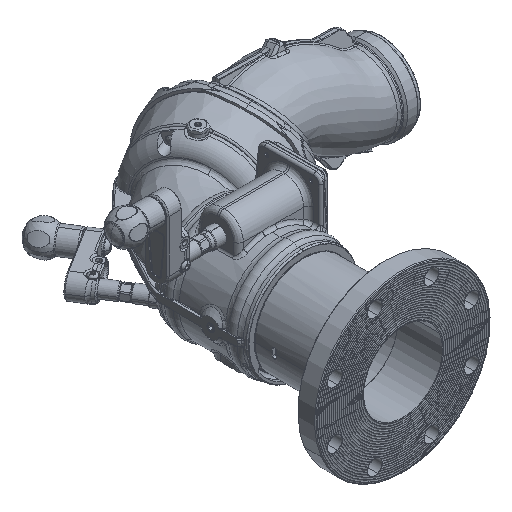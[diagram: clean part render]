
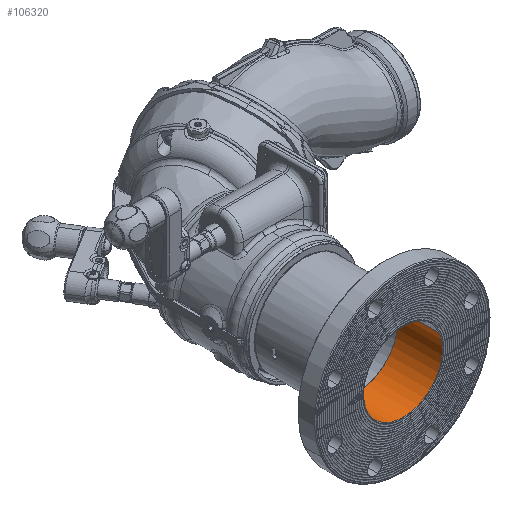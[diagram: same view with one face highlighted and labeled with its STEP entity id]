
A CAD part, isometric view. The second image highlights one B-rep face of the part: STEP entity #106320.
In plain terms, the highlighted cylindrical face has radius 50.8 mm (diameter 101.6 mm), a partial arc.
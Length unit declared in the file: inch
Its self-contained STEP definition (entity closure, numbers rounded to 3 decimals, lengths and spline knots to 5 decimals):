
#2642 = CARTESIAN_POINT ( 'NONE',  ( 0., -9.59562, 0. ) ) ;
#4310 = CARTESIAN_POINT ( 'NONE',  ( -1.84776, -6.81471, -0.76537 ) ) ;
#5123 = DIRECTION ( 'NONE',  ( 0., 1., 0. ) ) ;
#7332 = CIRCLE ( 'NONE', #82088, 2. ) ;
#12730 = LINE ( 'NONE', #86142, #80645 ) ;
#15342 = VERTEX_POINT ( 'NONE', #119558 ) ;
#24745 = VERTEX_POINT ( 'NONE', #89768 ) ;
#28798 = CYLINDRICAL_SURFACE ( 'NONE', #88360, 2. ) ;
#29998 = DIRECTION ( 'NONE',  ( -0.924, 0., -0.383 ) ) ;
#30804 = DIRECTION ( 'NONE',  ( 0., 1., 0. ) ) ;
#31121 = ORIENTED_EDGE ( 'NONE', *, *, #43207, .F. ) ;
#37063 = CARTESIAN_POINT ( 'NONE',  ( 0., -6.81471, 0. ) ) ;
#40264 = VERTEX_POINT ( 'NONE', #88288 ) ;
#43207 = EDGE_CURVE ( 'NONE', #15342, #40264, #54140, .T. ) ;
#43443 = VERTEX_POINT ( 'NONE', #54768 ) ;
#49040 = DIRECTION ( 'NONE',  ( 0., 1., 0. ) ) ;
#49895 = DIRECTION ( 'NONE',  ( 0., 1., 0. ) ) ;
#49904 = ORIENTED_EDGE ( 'NONE', *, *, #50099, .F. ) ;
#50099 = EDGE_CURVE ( 'NONE', #24745, #97151, #7332, .T. ) ;
#50984 = CIRCLE ( 'NONE', #107797, 2. ) ;
#51522 = DIRECTION ( 'NONE',  ( 0., 1., 0. ) ) ;
#54140 = LINE ( 'NONE', #4310, #82191 ) ;
#54768 = CARTESIAN_POINT ( 'NONE',  ( 1.84776, -7.3178, 0.76537 ) ) ;
#57473 = EDGE_CURVE ( 'NONE', #97151, #15342, #50984, .T. ) ;
#59073 = ORIENTED_EDGE ( 'NONE', *, *, #75686, .T. ) ;
#60394 = ORIENTED_EDGE ( 'NONE', *, *, #57473, .F. ) ;
#60531 = DIRECTION ( 'NONE',  ( 0., 1., 0. ) ) ;
#63011 = FACE_OUTER_BOUND ( 'NONE', #121189, .T. ) ;
#72507 = DIRECTION ( 'NONE',  ( -0.383, 0., 0.924 ) ) ;
#75686 = EDGE_CURVE ( 'NONE', #43443, #40264, #76913, .T. ) ;
#76913 = CIRCLE ( 'NONE', #96149, 2. ) ;
#80645 = VECTOR ( 'NONE', #49040, 39.37008 ) ;
#82088 = AXIS2_PLACEMENT_3D ( 'NONE', #2642, #60531, #88596 ) ;
#82191 = VECTOR ( 'NONE', #51522, 39.37008 ) ;
#86142 = CARTESIAN_POINT ( 'NONE',  ( 1.84776, -6.81471, 0.76537 ) ) ;
#88288 = CARTESIAN_POINT ( 'NONE',  ( -1.84776, -7.3178, -0.76537 ) ) ;
#88360 = AXIS2_PLACEMENT_3D ( 'NONE', #37063, #30804, #29998 ) ;
#88596 = DIRECTION ( 'NONE',  ( -0.383, 0., 0.924 ) ) ;
#89768 = CARTESIAN_POINT ( 'NONE',  ( 1.84776, -9.59562, 0.76537 ) ) ;
#90725 = CARTESIAN_POINT ( 'NONE',  ( 0., -9.59562, 0. ) ) ;
#92897 = ORIENTED_EDGE ( 'NONE', *, *, #106307, .T. ) ;
#95283 = CARTESIAN_POINT ( 'NONE',  ( 0.76537, -9.59562, -1.84776 ) ) ;
#96149 = AXIS2_PLACEMENT_3D ( 'NONE', #106435, #49895, #105239 ) ;
#97151 = VERTEX_POINT ( 'NONE', #95283 ) ;
#105239 = DIRECTION ( 'NONE',  ( -0.924, 0., -0.383 ) ) ;
#106307 = EDGE_CURVE ( 'NONE', #24745, #43443, #12730, .T. ) ;
#106320 = ADVANCED_FACE ( 'NONE', ( #63011 ), #28798, .F. ) ;
#106435 = CARTESIAN_POINT ( 'NONE',  ( 0., -7.3178, 0. ) ) ;
#107797 = AXIS2_PLACEMENT_3D ( 'NONE', #90725, #5123, #72507 ) ;
#119558 = CARTESIAN_POINT ( 'NONE',  ( -1.84776, -9.59562, -0.76537 ) ) ;
#121189 = EDGE_LOOP ( 'NONE', ( #49904, #92897, #59073, #31121, #60394 ) ) ;
